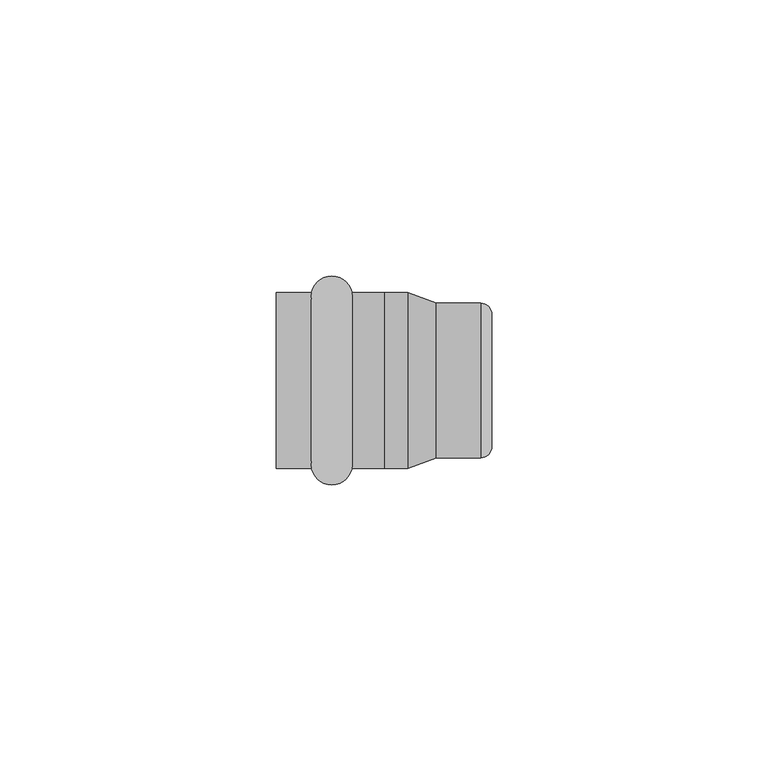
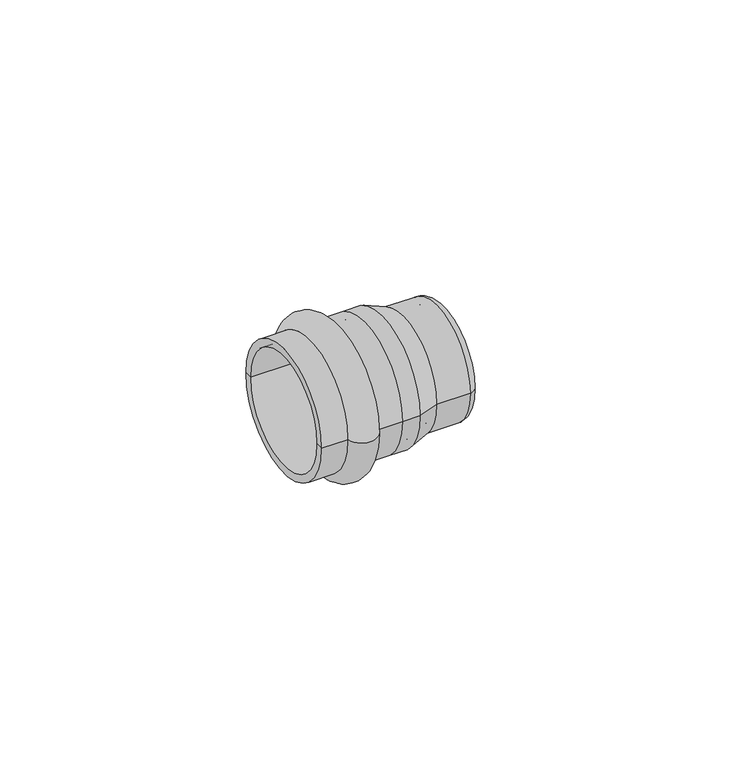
"""IFC4 building model written with IfcOpenShell, lengths in millimetres: pipe fitting geometry, VALTEC_VTi.961.I_Заглушка_нержавеющая : VTi.961.I."""

import ifcopenshell
import ifcopenshell.guid

model = None  # the IFC model being written
_history = None  # IfcOwnerHistory: only IFC2X3 demands one
_inside = {}  # id of a spatial element -> (the spatial element, [elements in it])
_under = {}  # id of a project, library or spatial element -> (it, [spatial elements below it])
_declared = {}  # id of a project -> (the project, [libraries it declares])
_typed = {}  # id of a type object -> (the type object, [elements of that type])
_made_of = {}  # id of a material, layer set ... -> (it, [elements and type objects made of it])


def new_model(schema):
    """Start an empty IFC model of exactly this schema.

    Asked for "IFC4X3", IfcOpenShell would pick the latest addendum, in which some entities
    have other attributes; the version numbers below select the first issue.
    IFC2X3 requires an IfcOwnerHistory on every rooted entity: one is made here for all.
    """
    global model, _history
    if schema == "IFC4X3":
        model = ifcopenshell.file(schema_version=(4, 3, 0, 0))
    else:
        model = ifcopenshell.file(schema=schema)
    _inside.clear()
    _under.clear()
    _declared.clear()
    _typed.clear()
    _made_of.clear()
    _history = None
    if model.schema == "IFC2X3":
        org = make("IfcOrganization", Name="unknown")
        user = make(
            "IfcPersonAndOrganization",
            ThePerson=make("IfcPerson", FamilyName="unknown"),
            TheOrganization=org,
        )
        app = make(
            "IfcApplication",
            ApplicationDeveloper=org,
            Version="unknown",
            ApplicationFullName="unknown",
            ApplicationIdentifier="unknown",
        )
        _history = make(
            "IfcOwnerHistory",
            OwningUser=user,
            OwningApplication=app,
            ChangeAction="ADDED",
            CreationDate=0,
        )
    return model


def make(cls, **values):
    """One entity of the class cls with the attributes given. An attribute that is None is left unset."""
    return model.create_entity(
        cls, **{name: value for name, value in values.items() if value is not None}
    )


def rooted(cls, **values):
    """An entity with a GlobalId (a new one), such as an element, a storey or a relation."""
    return make(cls, GlobalId=ifcopenshell.guid.new(), OwnerHistory=_history, **values)


def si_unit(unit_type, name, prefix=None):
    """IfcSIUnit, for example si_unit("LENGTHUNIT", "METRE", prefix="MILLI")."""
    return make("IfcSIUnit", UnitType=unit_type, Prefix=prefix, Name=name)


def assignment(units):
    """IfcUnitAssignment: the units of a project."""
    return None if units is None else make("IfcUnitAssignment", Units=units)


def point(xyz):
    """IfcCartesianPoint."""
    return None if xyz is None else make("IfcCartesianPoint", Coordinates=xyz)


def direction(xyz):
    """IfcDirection."""
    return None if xyz is None else make("IfcDirection", DirectionRatios=xyz)


def frame(location, z_axis=None, x_axis=None):
    """IfcAxis2Placement3D, a coordinate frame: its origin and axes. An axis left out is left unset."""
    return make(
        "IfcAxis2Placement3D",
        Location=point(location),
        Axis=direction(z_axis),
        RefDirection=direction(x_axis),
    )


def origin():
    """The frame at (0, 0, 0) with its axes left unset."""
    return frame((0.0, 0.0, 0.0))


def place(relative_to, where):
    """IfcLocalPlacement: puts the frame where relative to a parent placement (None: the world)."""
    return make(
        "IfcLocalPlacement", PlacementRelTo=relative_to, RelativePlacement=where
    )


def context(
    kind, dimensions, precision=None, world=None, true_north=None, identifier=None
):
    """IfcGeometricRepresentationContext, for example the 3D "Model" context."""
    return make(
        "IfcGeometricRepresentationContext",
        ContextIdentifier=identifier,
        ContextType=kind,
        CoordinateSpaceDimension=dimensions,
        Precision=precision,
        WorldCoordinateSystem=world,
        TrueNorth=true_north,
    )


def project(units=None, contexts=None):
    """IfcProject with its units and contexts."""
    return rooted(
        "IfcProject",
        Name="project",
        RepresentationContexts=contexts,
        UnitsInContext=assignment(units),
    )


def spatial(cls, under=None, at=None, **own):
    """A site, building, storey or space (cls), placed at a placement, below another one or the project."""
    s = rooted(cls, ObjectPlacement=at, **own)
    if under is not None:
        _under.setdefault(under.id(), (under, []))[1].append(s)
    return s


def polyline(points):
    """IfcPolyline through the points."""
    return make("IfcPolyline", Points=[point(p) for p in points])


def circle_curve(where, radius):
    """IfcCircle in the frame where."""
    return make("IfcCircle", Position=where, Radius=radius)


def ellipse_curve(where, semi_axis1, semi_axis2):
    """IfcEllipse in the frame where."""
    return make(
        "IfcEllipse", Position=where, SemiAxis1=semi_axis1, SemiAxis2=semi_axis2
    )


def trimmed(basis, trim1, trim2, sense, master):
    """IfcTrimmedCurve: the piece of a basis curve between two trims."""
    return make(
        "IfcTrimmedCurve",
        BasisCurve=basis,
        Trim1=trim1,
        Trim2=trim2,
        SenseAgreement=sense,
        MasterRepresentation=master,
    )


def shape(context_of_items, identifier, shape_type, items):
    """IfcShapeRepresentation: the items that make up one representation, for example the "Body"."""
    return make(
        "IfcShapeRepresentation",
        ContextOfItems=context_of_items,
        RepresentationIdentifier=identifier,
        RepresentationType=shape_type,
        Items=items,
    )


def source(mapping_origin, context_of_items, identifier, shape_type, items):
    """IfcRepresentationMap: a shape defined once, which mapped items show again and again."""
    return make(
        "IfcRepresentationMap",
        MappingOrigin=mapping_origin,
        MappedRepresentation=shape(context_of_items, identifier, shape_type, items),
    )


def transform(
    local_origin,
    x_axis=None,
    y_axis=None,
    z_axis=None,
    scale=None,
    scale2=None,
    scale3=None,
    uniform=True,
):
    """IfcCartesianTransformationOperator3D, or its non-uniform kind. x_axis, y_axis, z_axis: its Axis1, 2, 3."""
    if uniform:
        return make(
            "IfcCartesianTransformationOperator3D",
            Axis1=direction(x_axis),
            Axis2=direction(y_axis),
            LocalOrigin=point(local_origin),
            Scale=scale,
            Axis3=direction(z_axis),
        )
    return make(
        "IfcCartesianTransformationOperator3DnonUniform",
        Axis1=direction(x_axis),
        Axis2=direction(y_axis),
        LocalOrigin=point(local_origin),
        Scale=scale,
        Axis3=direction(z_axis),
        Scale2=scale2,
        Scale3=scale3,
    )


def mapped(mapping_source, mapping_target):
    """IfcMappedItem: shows the shape of a source again, moved by a transform."""
    return make(
        "IfcMappedItem", MappingSource=mapping_source, MappingTarget=mapping_target
    )


def made_of(thing, what):
    """Note that an element or type object is made of a material, layer set ...; save() writes the relation."""
    if what is not None:
        _made_of.setdefault(what.id(), (what, []))[1].append(thing)
    return thing


def element(
    cls,
    number,
    at=None,
    inside=None,
    cuts=None,
    type_object=None,
    material=None,
    context=None,
    identifier="Body",
    shape_type=None,
    held_by="IfcProductDefinitionShape",
    body=None,
    shapes=None,
    **own,
):
    """One element of the class cls, such as IfcWall. Its Tag is "e" and its number.

    at: its placement. inside: the storey or other place that contains it. cuts: it is an
    opening in that element (IfcRelVoidsElement). A single representation is given by context,
    identifier, shape_type and body (its items); several are given by shapes. held_by: the class
    of the entity that holds the representations. save() writes the other relations.
    """
    e = rooted(cls, Tag="e%d" % number, ObjectPlacement=at, **own)
    if body is not None:
        shapes = [shape(context, identifier, shape_type, body)]
    if shapes is not None:
        e.Representation = make(held_by, Representations=shapes)
    if inside is not None:
        _inside.setdefault(inside.id(), (inside, []))[1].append(e)
    if cuts is not None:
        rooted(
            "IfcRelVoidsElement", RelatingBuildingElement=cuts, RelatedOpeningElement=e
        )
    if type_object is not None:
        _typed.setdefault(type_object.id(), (type_object, []))[1].append(e)
    return made_of(e, material)


def aggregate(whole, parts):
    """IfcRelAggregates: a whole, such as a stair, and the parts it consists of."""
    return rooted("IfcRelAggregates", RelatingObject=whole, RelatedObjects=parts)


def save(model, path):
    """Write the relations noted so far, then the file.

    IfcRelAggregates (storeys below a building ...), IfcRelContainedInSpatialStructure (elements
    in a storey), IfcRelDefinesByType, IfcRelAssociatesMaterial and IfcRelDeclares: one each for
    every whole, place, type object, material and project.
    """
    for whole, parts in _under.values():
        aggregate(whole, parts)
    for where, things in _inside.values():
        rooted(
            "IfcRelContainedInSpatialStructure",
            RelatedElements=things,
            RelatingStructure=where,
        )
    for kind, things in _typed.values():
        rooted("IfcRelDefinesByType", RelatedObjects=things, RelatingType=kind)
    for what, things in _made_of.values():
        rooted("IfcRelAssociatesMaterial", RelatedObjects=things, RelatingMaterial=what)
    for by, libraries in _declared.values():
        rooted("IfcRelDeclares", RelatingContext=by, RelatedDefinitions=libraries)
    model.write(path)


def plane_surface(at):
    """IfcPlane: the flat surface through the origin of the frame at, square to its z axis."""
    return make("IfcPlane", Position=at)


def cylinder_surface(at, radius):
    """IfcCylindricalSurface: all points at the distance radius from the z axis of the frame at."""
    return make("IfcCylindricalSurface", Position=at, Radius=radius)


def revolved_surface(curve, axis_point, axis_direction):
    """IfcSurfaceOfRevolution: the curve turned about the line through axis_point along axis_direction."""
    return make(
        "IfcSurfaceOfRevolution",
        SweptCurve=make("IfcArbitraryOpenProfileDef", ProfileType="CURVE", Curve=curve),
        AxisPosition=make("IfcAxis1Placement", Location=point(axis_point), Axis=direction(axis_direction)),
    )


def advanced_brep(points, edges, surfaces, faces):
    """IfcAdvancedBrep: a solid bounded by faces that lie on surfaces and meet in shared edges.

    An edge is (start, end): straight between two places in points (the first is 0);
    or (start, end, curve); or (start, end, curve, False) where it runs against its curve.
    A face is (place in surfaces, loops), or (place, loops, False) where it looks against
    its surface's normal. A loop lists edges by number (the first is 1), with a minus sign
    where the edge is run from its end to its start. The first loop is the outer one.
    """
    corners = [point(p) for p in points]
    vertices = [make("IfcVertexPoint", VertexGeometry=c) for c in corners]
    made = []
    for start, end, *more in edges:
        made.append(
            make(
                "IfcEdgeCurve",
                EdgeStart=vertices[start],
                EdgeEnd=vertices[end],
                EdgeGeometry=more[0] if more else make("IfcPolyline", Points=[corners[start], corners[end]]),
                SameSense=more[1] if len(more) > 1 else True,
            )
        )
    hull = []
    for where, loops, *sense in faces:
        bounds = []
        for j, loop in enumerate(loops):
            ring = [make("IfcOrientedEdge", EdgeElement=made[abs(k) - 1], Orientation=k > 0) for k in loop]
            bounds.append(
                make(
                    "IfcFaceOuterBound" if j == 0 else "IfcFaceBound",
                    Bound=make("IfcEdgeLoop", EdgeList=ring),
                    Orientation=True,
                )
            )
        hull.append(make("IfcAdvancedFace", Bounds=bounds, FaceSurface=surfaces[where], SameSense=sense[0] if sense else True))
    return make("IfcAdvancedBrep", Outer=make("IfcClosedShell", CfsFaces=hull))


def pipe_fitting_419ad448(model_context):
    return source(origin(), model_context, "Body", "AdvancedBrep", [
        advanced_brep(
        [(6.3757654, -15.9, 0.0), (6.3757654, 15.9, 0.0), (13.7242346, 15.9, 0.0), (13.7242346, -15.9, 0.0), (0.0, -15.9, 0.0), (0.0, 15.9, 0.0), (0.0, -14.0, 0.0), (0.0, 14.0, 0.0), (19.5, -14.0, 0.0), (19.5, 14.0, 0.0), (19.5, -15.9, 0.0), (19.5, 15.9, 0.0)],
        [
            (0, 1, circle_curve(frame((6.3757654, 0.0, 0.0), z_axis=(1.0, 0.0, 0.0), x_axis=(0.0, 1.0, 0.0)), 15.9)),
            (1, 2, circle_curve(frame((10.05, 15.15, 0.0), z_axis=(0.0, 0.0, -1.0), x_axis=(1.0, 0.0, 0.0)), 3.75)),
            (2, 3, circle_curve(frame((13.7242346, 0.0, 0.0), z_axis=(-1.0, 0.0, 0.0), x_axis=(0.0, 1.0, 0.0)), 15.9)),
            (3, 0, circle_curve(frame((10.05, -15.15, 0.0), z_axis=(0.0, 0.0, -1.0), x_axis=(1.0, 0.0, 0.0)), 3.75)),
            (1, 0, circle_curve(frame((6.3757654, 0.0, 0.0), z_axis=(1.0, 0.0, 0.0), x_axis=(0.0, 1.0, 0.0)), 15.9)),
            (3, 2, circle_curve(frame((13.7242346, 0.0, 0.0), z_axis=(-1.0, 0.0, 0.0), x_axis=(0.0, 1.0, 0.0)), 15.9)),
            (4, 5, circle_curve(frame((0.0, 0.0, 0.0), z_axis=(1.0, 0.0, 0.0), x_axis=(0.0, 1.0, 0.0)), 15.9)),
            (5, 1),
            (0, 4),
            (5, 4, circle_curve(frame((0.0, 0.0, 0.0), z_axis=(1.0, 0.0, 0.0), x_axis=(0.0, 1.0, 0.0)), 15.9)),
            (6, 7, circle_curve(frame((0.0, 0.0, 0.0), z_axis=(1.0, 0.0, 0.0), x_axis=(0.0, 1.0, 0.0)), 14.0)),
            (7, 5),
            (4, 6),
            (7, 6, circle_curve(frame((0.0, 0.0, 0.0), z_axis=(1.0, 0.0, 0.0), x_axis=(0.0, 1.0, 0.0)), 14.0)),
            (8, 9, circle_curve(frame((19.5, 0.0, 0.0), z_axis=(1.0, 0.0, 0.0), x_axis=(0.0, 1.0, 0.0)), 14.0)),
            (9, 7),
            (6, 8),
            (9, 8, circle_curve(frame((19.5, 0.0, 0.0), z_axis=(1.0, 0.0, 0.0), x_axis=(0.0, 1.0, 0.0)), 14.0)),
            (10, 11, circle_curve(frame((19.5, 0.0, 0.0), z_axis=(1.0, 0.0, 0.0), x_axis=(0.0, 1.0, 0.0)), 15.9)),
            (11, 9),
            (8, 10),
            (11, 10, circle_curve(frame((19.5, 0.0, 0.0), z_axis=(1.0, 0.0, 0.0), x_axis=(0.0, 1.0, 0.0)), 15.9)),
            (2, 11),
            (10, 3),
        ],
        [
            revolved_surface(trimmed(ellipse_curve(frame((10.05, 15.15, 0.0), z_axis=(0.0, 0.0, 1.0), x_axis=(1.0, 0.0, 0.0)), 3.75, 3.75), [point((13.7242346, 15.9, 0.0))], [point((6.3757654, 15.9, 0.0))], True, "CARTESIAN"), (-3.5364426, 0.0, 0.0), (-1.0, 0.0, 0.0)),
            cylinder_surface(frame((-3.5364426, 0.0, 0.0), z_axis=(-1.0, 0.0, 0.0), x_axis=(0.0, 1.0, 0.0)), 15.9),
            plane_surface(frame((0.0, 0.0, 0.0), z_axis=(-1.0, 0.0, 0.0), x_axis=(0.0, 1.0, 0.0))),
            revolved_surface(polyline([(0.0, 14.0, 0.0), (19.5, 14.0, 0.0)]), (-3.5364426, 0.0, 0.0), (-1.0, 0.0, 0.0)),
            plane_surface(frame((19.5, 0.0, 0.0), z_axis=(1.0, 0.0, 0.0), x_axis=(0.0, 1.0, 0.0))),
        ],
        [
            (0, [[1, 2, 3, 4]]),
            (0, [[5, -4, 6, -2]]),
            (1, [[7, 8, -1, 9]]),
            (1, [[10, -9, -5, -8]]),
            (2, [[11, 12, -7, 13]]),
            (2, [[14, -13, -10, -12]]),
            (3, [[15, 16, -11, 17]]),
            (3, [[18, -17, -14, -16]]),
            (4, [[19, 20, -15, 21]]),
            (4, [[22, -21, -18, -20]]),
            (1, [[-3, 23, -19, 24]]),
            (1, [[-6, -24, -22, -23]]),
        ],
    ),
        advanced_brep(
        [(19.5, -15.9, 0.0), (19.5, 15.9, 0.0), (23.7797929, 15.9, 0.0), (23.7797929, -15.9, 0.0), (23.7797929, -14.0, 0.0), (23.7797929, 14.0, 0.0), (19.5, 14.0, 0.0), (19.5, -14.0, 0.0), (37.1, -12.1, 0.0), (37.1, 12.1, 0.0), (29.0, 12.1, 0.0), (29.0, -12.1, 0.0), (37.1, 0.0, 0.0), (39.0, -12.0, 0.0), (39.0, 12.0, 0.0), (39.0, 0.0, 0.0), (29.0, -14.0, 0.0), (29.0, 14.0, 0.0), (37.0, 14.0, 0.0), (37.0, -14.0, 0.0)],
        [
            (0, 1, circle_curve(frame((19.5, 0.0, 0.0), z_axis=(1.0, 0.0, 0.0), x_axis=(0.0, 1.0, 0.0)), 15.9)),
            (1, 2),
            (2, 3, circle_curve(frame((23.7797929, 0.0, 0.0), z_axis=(-1.0, 0.0, 0.0), x_axis=(0.0, 1.0, 0.0)), 15.9)),
            (3, 0),
            (1, 0, circle_curve(frame((19.5, 0.0, 0.0), z_axis=(1.0, 0.0, 0.0), x_axis=(0.0, 1.0, 0.0)), 15.9)),
            (3, 2, circle_curve(frame((23.7797929, 0.0, 0.0), z_axis=(-1.0, 0.0, 0.0), x_axis=(0.0, 1.0, 0.0)), 15.9)),
            (4, 5, circle_curve(frame((23.7797929, 0.0, 0.0), z_axis=(1.0, 0.0, 0.0), x_axis=(0.0, 1.0, 0.0)), 14.0)),
            (5, 6),
            (6, 7, circle_curve(frame((19.5, 0.0, 0.0), z_axis=(-1.0, 0.0, 0.0), x_axis=(0.0, 1.0, 0.0)), 14.0)),
            (7, 4),
            (5, 4, circle_curve(frame((23.7797929, 0.0, 0.0), z_axis=(1.0, 0.0, 0.0), x_axis=(0.0, 1.0, 0.0)), 14.0)),
            (7, 6, circle_curve(frame((19.5, 0.0, 0.0), z_axis=(-1.0, 0.0, 0.0), x_axis=(0.0, 1.0, 0.0)), 14.0)),
            (6, 1),
            (0, 7),
            (8, 9, circle_curve(frame((37.1, 0.0, 0.0), z_axis=(1.0, 0.0, 0.0), x_axis=(0.0, 1.0, 0.0)), 12.1)),
            (9, 10),
            (10, 11, circle_curve(frame((29.0, 0.0, 0.0), z_axis=(-1.0, 0.0, 0.0), x_axis=(0.0, 1.0, 0.0)), 12.1)),
            (11, 8),
            (9, 8, circle_curve(frame((37.1, 0.0, 0.0), z_axis=(1.0, 0.0, 0.0), x_axis=(0.0, 1.0, 0.0)), 12.1)),
            (11, 10, circle_curve(frame((29.0, 0.0, 0.0), z_axis=(-1.0, 0.0, 0.0), x_axis=(0.0, 1.0, 0.0)), 12.1)),
            (12, 9),
            (8, 12),
            (13, 14, circle_curve(frame((39.0, 0.0, 0.0), z_axis=(1.0, 0.0, 0.0), x_axis=(0.0, 1.0, 0.0)), 12.0)),
            (14, 15),
            (15, 13),
            (14, 13, circle_curve(frame((39.0, 0.0, 0.0), z_axis=(1.0, 0.0, 0.0), x_axis=(0.0, 1.0, 0.0)), 12.0)),
            (16, 17, circle_curve(frame((29.0, 0.0, 0.0), z_axis=(1.0, 0.0, 0.0), x_axis=(0.0, 1.0, 0.0)), 14.0)),
            (17, 18),
            (18, 19, circle_curve(frame((37.0, 0.0, 0.0), z_axis=(-1.0, 0.0, 0.0), x_axis=(0.0, 1.0, 0.0)), 14.0)),
            (19, 16),
            (17, 16, circle_curve(frame((29.0, 0.0, 0.0), z_axis=(1.0, 0.0, 0.0), x_axis=(0.0, 1.0, 0.0)), 14.0)),
            (19, 18, circle_curve(frame((37.0, 0.0, 0.0), z_axis=(-1.0, 0.0, 0.0), x_axis=(0.0, 1.0, 0.0)), 14.0)),
            (2, 17),
            (16, 3),
            (10, 5),
            (4, 11),
            (18, 14, circle_curve(frame((37.0, 12.0, 0.0), z_axis=(0.0, 0.0, -1.0), x_axis=(1.0, 0.0, 0.0)), 2.0)),
            (13, 19, circle_curve(frame((37.0, -12.0, 0.0), z_axis=(0.0, 0.0, -1.0), x_axis=(1.0, 0.0, 0.0)), 2.0)),
        ],
        [
            cylinder_surface(frame((-40.0167378, 0.0, 0.0), z_axis=(-1.0, 0.0, 0.0), x_axis=(0.0, 1.0, 0.0)), 15.9),
            revolved_surface(polyline([(19.5, 14.0, 0.0), (23.779792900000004, 14.0, 0.0)]), (-40.0167378, 0.0, 0.0), (-1.0, 0.0, 0.0)),
            plane_surface(frame((19.5, 0.0, 0.0), z_axis=(-1.0, 0.0, 0.0), x_axis=(0.0, 1.0, 0.0))),
            revolved_surface(polyline([(29.0, 12.1, 0.0), (37.10000000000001, 12.1, 0.0)]), (-40.0167378, 0.0, 0.0), (-1.0, 0.0, 0.0)),
            plane_surface(frame((37.1, 0.0, 0.0), z_axis=(-1.0, 0.0, 0.0), x_axis=(0.0, 1.0, 0.0))),
            plane_surface(frame((39.0, 0.0, 0.0), z_axis=(1.0, 0.0, 0.0), x_axis=(0.0, 1.0, 0.0))),
            cylinder_surface(frame((-40.0167378, 0.0, 0.0), z_axis=(-1.0, 0.0, 0.0), x_axis=(0.0, 1.0, 0.0)), 14.0),
            revolved_surface(polyline([(29.0, 14.0, 0.0), (23.7797929, 15.9, 0.0)]), (-40.0167378, 0.0, 0.0), (-1.0, 0.0, 0.0)),
            revolved_surface(polyline([(23.7797929, 14.0, 0.0), (29.0, 12.1, 0.0)]), (-40.0167378, 0.0, 0.0), (-1.0, 0.0, 0.0)),
            revolved_surface(trimmed(ellipse_curve(frame((37.0, 12.0, 0.0), z_axis=(0.0, 0.0, 1.0), x_axis=(1.0, 0.0, 0.0)), 2.0, 2.0), [point((39.0, 12.0, 0.0))], [point((37.0, 14.0, 0.0))], True, "CARTESIAN"), (-40.0167378, 0.0, 0.0), (-1.0, 0.0, 0.0)),
        ],
        [
            (0, [[1, 2, 3, 4]]),
            (0, [[5, -4, 6, -2]]),
            (1, [[7, 8, 9, 10]]),
            (1, [[11, -10, 12, -8]]),
            (2, [[-9, 13, -1, 14]]),
            (2, [[-12, -14, -5, -13]]),
            (3, [[15, 16, 17, 18]]),
            (3, [[19, -18, 20, -16]]),
            (4, [[21, -15, 22]]),
            (4, [[-22, -19, -21]]),
            (5, [[23, 24, 25]]),
            (5, [[26, -25, -24]]),
            (6, [[27, 28, 29, 30]]),
            (6, [[31, -30, 32, -28]]),
            (7, [[-3, 33, -27, 34]]),
            (7, [[-6, -34, -31, -33]]),
            (8, [[-17, 35, -7, 36]]),
            (8, [[-20, -36, -11, -35]]),
            (9, [[-29, 37, -23, 38]]),
            (9, [[-32, -38, -26, -37]]),
        ],
    ),
    ])


if __name__ == "__main__":
    model = new_model("IFC4")
    model_context = context("Model", 3, world=origin())
    ifc_project = project(units=[si_unit("LENGTHUNIT", "METRE", prefix="MILLI")], contexts=[model_context])
    site = spatial("IfcSite", under=ifc_project)
    building = spatial("IfcBuilding", under=site)
    placement = place(None, origin())
    pipe_fitting_shape = pipe_fitting_419ad448(model_context)
    element("IfcPipeFitting", 1, ObjectType="VALTEC_VTi.961.I_Заглушка_нержавеющая : VTi.961.I", at=placement, inside=building, context=model_context, shape_type="MappedRepresentation", body=[
        mapped(pipe_fitting_shape, transform((0.0, 0.0, 0.0), x_axis=(1.0, 0.0, 0.0), y_axis=(0.0, 1.0, 0.0), z_axis=(0.0, 0.0, 1.0))),
    ])
    save(model, "model.ifc")
